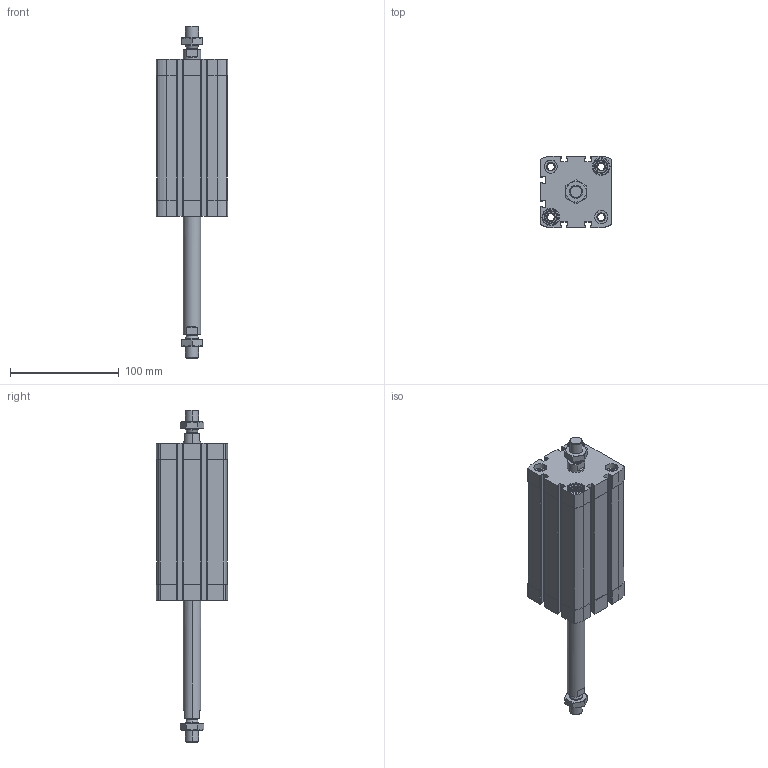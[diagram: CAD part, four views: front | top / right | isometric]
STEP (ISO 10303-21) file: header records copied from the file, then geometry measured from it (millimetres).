
FILE_DESCRIPTION (( 'STEP AP203' ), '1' );
FILE_NAME ('CCN50-100-P.STEP', '2020-06-22T19:00:25', ( '' ), ( '' ), 'SwSTEP 2.0', 'SolidWorks 2019', '' );
FILE_SCHEMA (( 'CONFIG_CONTROL_DESIGN' ));
Length unit declared in the file: millimetre
Products named in the file (1): CCN50-100-P
Bounding box: 65.5 x 65.5 x 306 mm (x, y, z)
Volume: 411047.4 mm3; surface area: 115748.8 mm2
Topology: 4 solids, 4 shells, 528 faces, 1392 edges, 904 vertices
Faces by surface type: plane 240, cylinder 220, cone 60, torus 8
Entity records: 17219 total; most frequent: CARTESIAN_POINT 3821, DIRECTION 2842, ORIENTED_EDGE 2784, EDGE_CURVE 1392, AXIS2_PLACEMENT_3D 1045, VERTEX_POINT 904, LINE 752, VECTOR 752
